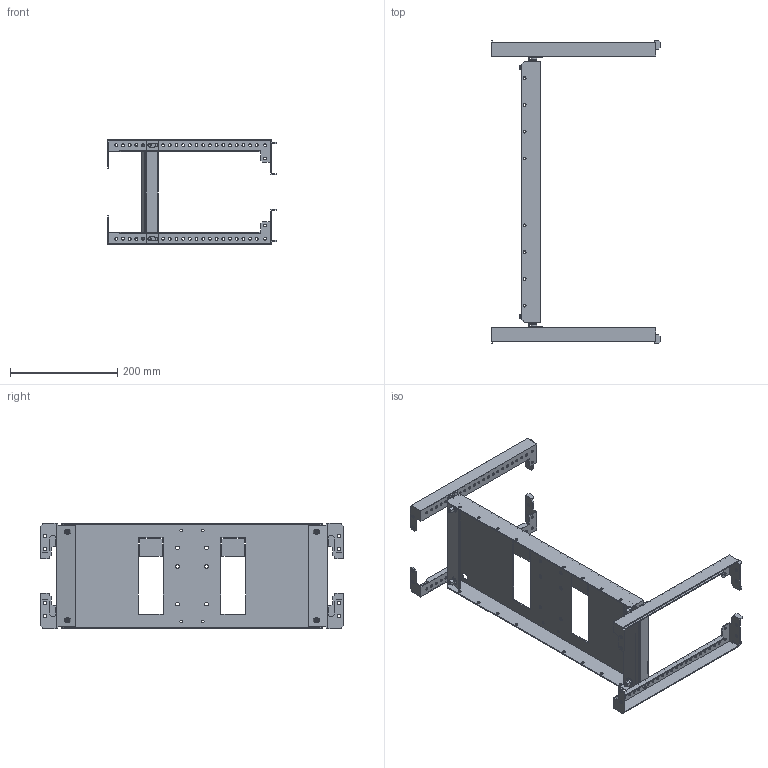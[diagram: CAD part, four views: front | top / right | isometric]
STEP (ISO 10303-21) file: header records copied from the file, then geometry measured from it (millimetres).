
FILE_DESCRIPTION (( 'STEP AP214' ), '1' );
FILE_NAME ('FO-00-GVT-020-060 Êîìïëåêò ãîðèçîíòàëüíîé óñòàíîâêè ARMAT MCCB òèïîðàçìåð G âòû÷íîãî èñïîëíåíèÿ 3II4P.STEP', '2025-07-16T07:17:27', ( '' ), ( '' ), 'SwSTEP 2.0', 'SolidWorks 2023', '' );
FILE_SCHEMA (( 'AUTOMOTIVE_DESIGN' ));
Length unit declared in the file: millimetre
Products named in the file (5): Винты DIN 912 4xM6x20; FO-00-GVT-020-060 Комплект горизонтальной установки ARMAT MCCB типоразмер G втычного исполнения 3II4P; Панель монтажная G фиксирвоанная; Траверса горизонтальнаяD; Траверса горизонтальная
Assembly tree (6 placements, depth 2):
  FO-00-GVT-020-060 Комплект горизонтальной установки ARMAT MCCB типоразмер G втычного исполнения 3II4P
    Панель монтажная G фиксирвоанная
    Винты DIN 912 4xM6x20
    Траверса горизонтальнаяD  x2
    Траверса горизонтальная  x2
Bounding box: 314.5 x 565.63 x 197 mm (x, y, z)
Volume: 486038.8 mm3; surface area: 503975.8 mm2
Topology: 9 solids, 13 shells, 1050 faces, 2860 edges, 1884 vertices
Faces by surface type: plane 490, cylinder 472, cone 56, torus 32
Entity records: 27379 total; most frequent: CARTESIAN_POINT 5579, DIRECTION 4596, ORIENTED_EDGE 4388, EDGE_CURVE 2194, AXIS2_PLACEMENT_3D 1649, VERTEX_POINT 1440, LINE 1298, VECTOR 1298
